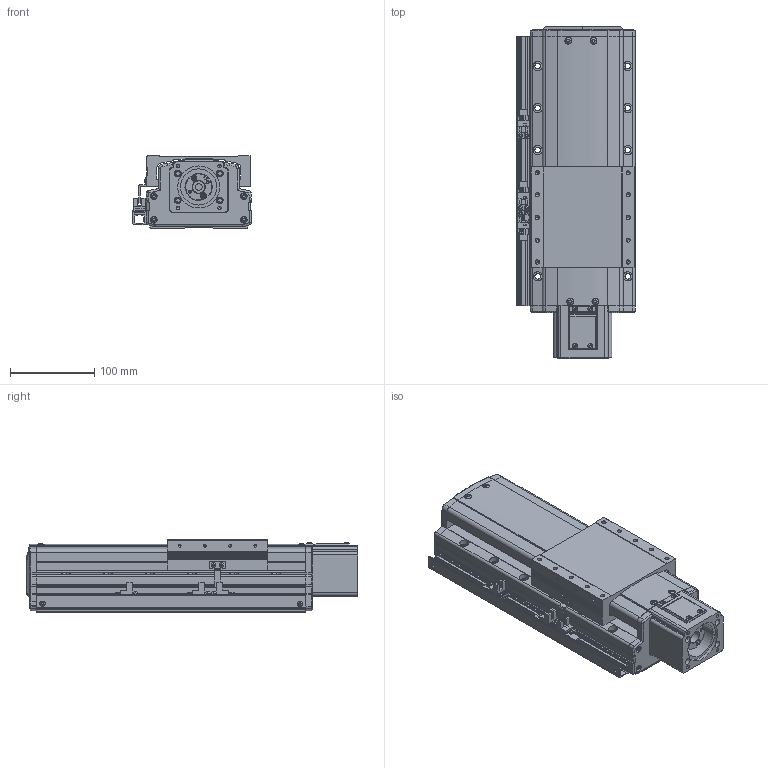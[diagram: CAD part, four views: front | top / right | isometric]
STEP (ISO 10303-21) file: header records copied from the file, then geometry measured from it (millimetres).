
FILE_DESCRIPTION(('STEP AP214'),'1');
FILE_NAME('Z:/Web/3D/PSA125/STP/PSA125-100 (3D)/PSA125ㅁㅁ-100S+3SL.stp','2014-06-20T06:56:40',(' '),(' '),'Spatial InterOp 3D',' ',' ');
FILE_SCHEMA(('automotive_design'));
Length unit declared in the file: millimetre
Products named in the file (53): 스크루 : Round - M4.0 x 10.0; RRCV-PA120; SLIDE; BASE; FRCV-PA120-1(기준 뿔 제거); RR1500; 스크루 : Round - M4.0 x 6.0; 너트 : Square - M10.0 x 220.7419; SSFX-SAN65; CPLCV-SAN65; 스크루 : Round - M3.0 x 6.0; MTHZ-PA120-S60A-3; 스크루 : Socket - M4.0 x 20.0; FRCV; NONE; EE-SX674; SBK-SX674-352; M3.0 x 6.0; SRL-16x17-380L; SGD-PA95; 스크루 : Round - M3.0 x 8.0
Bounding box: 141 x 394.6 x 86 mm (x, y, z)
Volume: 3170092.8 mm3; surface area: 415720.4 mm2
Topology: 53 solids, 87 shells, 3581 faces, 9174 edges, 5819 vertices
Faces by surface type: plane 1812, cylinder 1059, cone 425, torus 174, sphere 70, bspline 41
Entity records: 141184 total; most frequent: CARTESIAN_POINT 22960, DIRECTION 19242, ORIENTED_EDGE 18072, EDGE_CURVE 9036, AXIS2_PLACEMENT_3D 6849, VERTEX_POINT 5819, LINE 5544, VECTOR 5544
